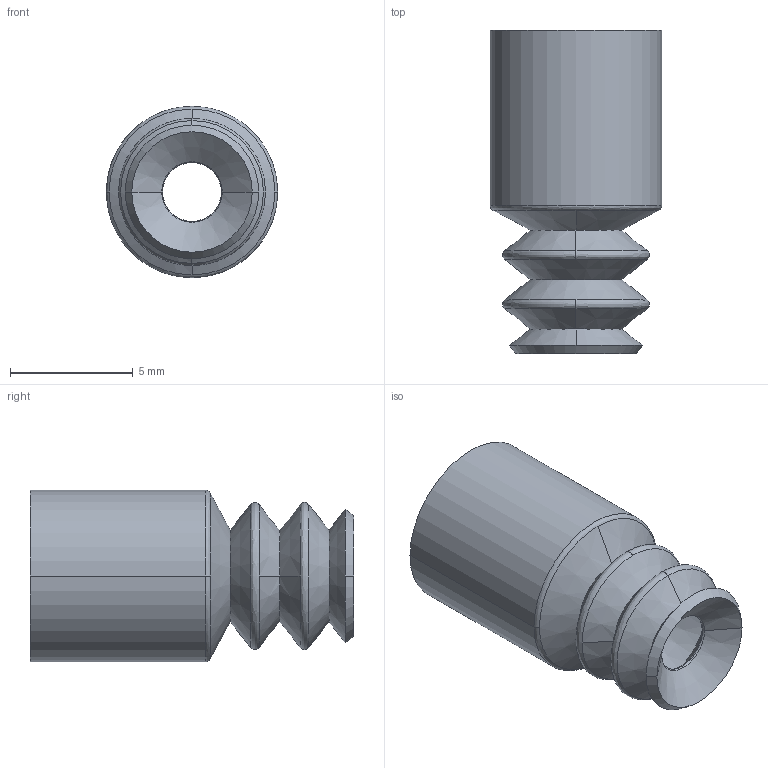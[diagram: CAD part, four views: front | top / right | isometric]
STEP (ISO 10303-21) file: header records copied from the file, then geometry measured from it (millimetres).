
FILE_DESCRIPTION (( 'STEP AP214' ), '1' );
FILE_NAME ('VS3-S6.STEP', '2019-11-13T08:28:14', ( '微软用户' ), ( '微软中国' ), 'SwSTEP 2.0', 'SolidWorks 2016', '' );
FILE_SCHEMA (( 'AUTOMOTIVE_DESIGN' ));
Length unit declared in the file: millimetre
Products named in the file (1): VS3-S6
Bounding box: 7 x 13.2 x 7 mm (x, y, z)
Volume: 248.9 mm3; surface area: 527.8 mm2
Topology: 1 solids, 1 shells, 49 faces, 110 edges, 62 vertices
Faces by surface type: cone 26, bspline 18, cylinder 4, plane 1
Entity records: 1590 total; most frequent: CARTESIAN_POINT 546, ORIENTED_EDGE 220, DIRECTION 218, EDGE_CURVE 110, AXIS2_PLACEMENT_3D 94, VERTEX_POINT 62, CIRCLE 62, EDGE_LOOP 50
